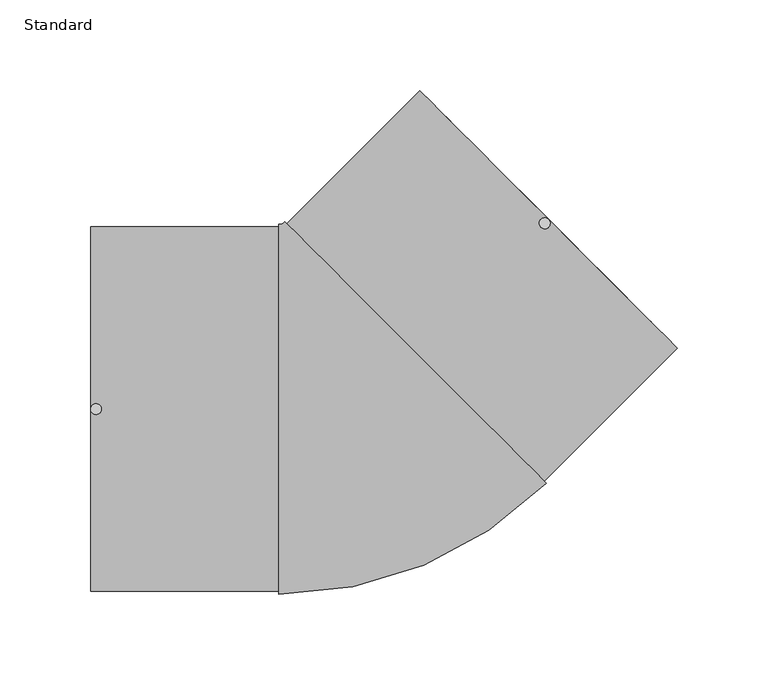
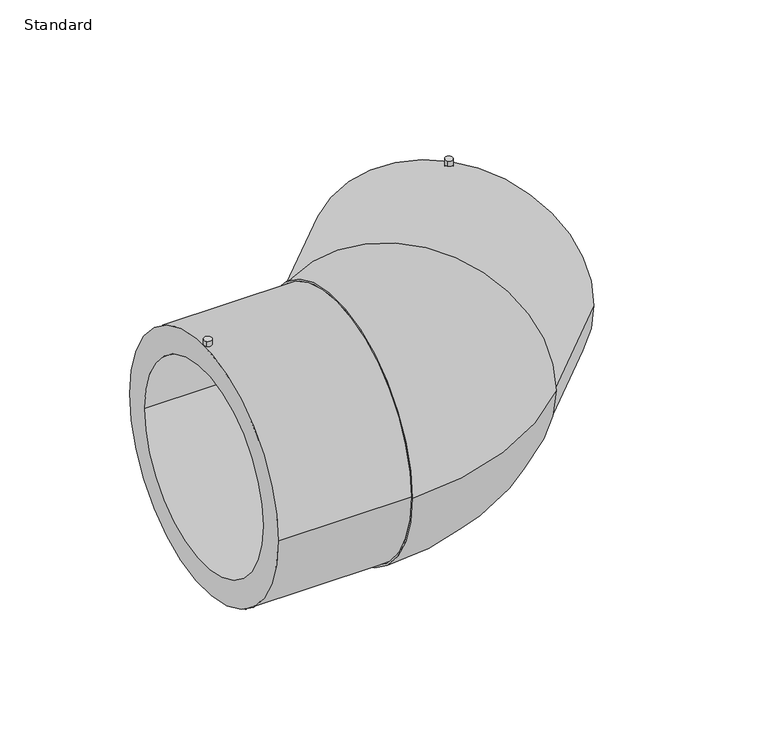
"""IFC4 building model written with IfcOpenShell, lengths in millimetres: pipe fitting geometry, EGB_VASEN_ PPR_Codo electrosoldable 90 WXRD200_Codo electrosoldable 45 WXRD220 : Standard."""

from ifc_helpers import new_model, si_unit, point, frame, frame_2d, origin, place, context, project, spatial, polyline, circle_curve, ellipse_curve, trimmed, segment, composite_curve, outline, extrude, source, transform, mapped, element, save
from ifc_brep_helpers import plane_surface, cylinder_surface, revolved_surface, advanced_brep


def standard_126719c3(model_context):
    return source(origin(), model_context, "Body", "SolidModel", [
        advanced_brep(
        [(-148.0, -100.5, 0.0), (-148.0, 100.5, 0.0), (-148.0, -80.0, 0.0), (-148.0, 80.0, 0.0), (-44.2497834, -100.5, 0.0), (-44.2497834, 100.5, 0.0), (-44.2497834, -80.0, 0.0), (-44.2497834, 80.0, 0.0), (-44.2497834, -102.0, 0.0), (-44.2497834, 102.0, 0.0), (103.4142136, -40.8355698, 0.0), (-40.8355698, 103.4142136, 0.0), (102.3535534, -39.7749096, 0.0), (-39.7749096, 102.3535534, 0.0), (87.8578644, -25.2792206, 0.0), (-25.2792206, 87.8578644, 0.0), (175.7160351, 33.5875721, 0.0), (33.5875721, 175.7160351, 0.0), (161.2203461, 48.0832611, 0.0), (48.0832611, 161.2203461, 0.0)],
        [
            (0, 1, circle_curve(frame((-148.0, 0.0, 0.0), z_axis=(-1.0, 0.0, 0.0), x_axis=(0.0, 1.0, 0.0)), 100.5)),
            (1, 0, circle_curve(frame((-148.0, 0.0, 0.0), z_axis=(-1.0, 0.0, 0.0), x_axis=(0.0, 1.0, 0.0)), 100.5)),
            (2, 3, circle_curve(frame((-148.0, 0.0, 0.0), z_axis=(1.0, 0.0, 0.0), x_axis=(0.0, 1.0, 0.0)), 80.0)),
            (3, 2, circle_curve(frame((-148.0, 0.0, 0.0), z_axis=(1.0, 0.0, 0.0), x_axis=(0.0, 1.0, 0.0)), 80.0)),
            (0, 4),
            (4, 5, circle_curve(frame((-44.2497834, 0.0, 0.0), z_axis=(-1.0, 0.0, 0.0), x_axis=(0.0, 1.0, 0.0)), 100.5)),
            (5, 1),
            (5, 4, circle_curve(frame((-44.2497834, 0.0, 0.0), z_axis=(-1.0, 0.0, 0.0), x_axis=(0.0, 1.0, 0.0)), 100.5)),
            (2, 6),
            (6, 7, circle_curve(frame((-44.2497834, 0.0, 0.0), z_axis=(1.0, 0.0, 0.0), x_axis=(0.0, 1.0, 0.0)), 80.0)),
            (7, 3),
            (7, 6, circle_curve(frame((-44.2497834, 0.0, 0.0), z_axis=(1.0, 0.0, 0.0), x_axis=(0.0, 1.0, 0.0)), 80.0)),
            (8, 9, circle_curve(frame((-44.2497834, 0.0, 0.0), z_axis=(-1.0, 0.0, 0.0), x_axis=(0.0, 1.0, 0.0)), 102.0)),
            (9, 8, circle_curve(frame((-44.2497834, 0.0, 0.0), z_axis=(-1.0, 0.0, 0.0), x_axis=(0.0, 1.0, 0.0)), 102.0)),
            (10, 11, circle_curve(frame((31.2893219, 31.2893219, 0.0), z_axis=(0.7071067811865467, 0.7071067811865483, 0.0), x_axis=(-0.7071067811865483, 0.7071067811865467, 0.0)), 102.0)),
            (11, 10, circle_curve(frame((31.2893219, 31.2893219, 0.0), z_axis=(0.7071067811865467, 0.7071067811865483, 0.0), x_axis=(-0.7071067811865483, 0.7071067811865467, 0.0)), 102.0)),
            (12, 13, circle_curve(frame((31.2893219, 31.2893219, 0.0), z_axis=(-0.7071067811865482, -0.7071067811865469, 0.0), x_axis=(-0.7071067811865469, 0.7071067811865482, 0.0)), 100.5)),
            (13, 12, circle_curve(frame((31.2893219, 31.2893219, 0.0), z_axis=(-0.7071067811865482, -0.7071067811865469, 0.0), x_axis=(-0.7071067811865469, 0.7071067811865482, 0.0)), 100.5)),
            (14, 15, circle_curve(frame((31.2893219, 31.2893219, 0.0), z_axis=(0.7071067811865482, 0.7071067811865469, 0.0), x_axis=(-0.7071067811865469, 0.7071067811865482, 0.0)), 80.0)),
            (15, 14, circle_curve(frame((31.2893219, 31.2893219, 0.0), z_axis=(0.7071067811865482, 0.7071067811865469, 0.0), x_axis=(-0.7071067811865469, 0.7071067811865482, 0.0)), 80.0)),
            (8, 10, circle_curve(frame((-44.2497834, 106.8284271, 0.0), z_axis=(0.0, 0.0, 1.0), x_axis=(0.0, -1.0, 0.0)), 208.8284271)),
            (11, 9, circle_curve(frame((-44.2497834, 106.8284271, 0.0), z_axis=(0.0, 0.0, -1.0), x_axis=(0.0, -1.0, 0.0)), 4.8284271)),
            (16, 17, circle_curve(frame((104.6518036, 104.6518036, 0.0), z_axis=(0.7071067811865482, 0.7071067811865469, 0.0), x_axis=(-0.7071067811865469, 0.7071067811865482, 0.0)), 100.5)),
            (17, 16, circle_curve(frame((104.6518036, 104.6518036, 0.0), z_axis=(0.7071067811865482, 0.7071067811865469, 0.0), x_axis=(-0.7071067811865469, 0.7071067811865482, 0.0)), 100.5)),
            (18, 19, circle_curve(frame((104.6518036, 104.6518036, 0.0), z_axis=(-0.7071067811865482, -0.7071067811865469, 0.0), x_axis=(-0.7071067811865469, 0.7071067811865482, 0.0)), 80.0)),
            (19, 18, circle_curve(frame((104.6518036, 104.6518036, 0.0), z_axis=(-0.7071067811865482, -0.7071067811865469, 0.0), x_axis=(-0.7071067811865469, 0.7071067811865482, 0.0)), 80.0)),
            (17, 13),
            (12, 16),
            (19, 15),
            (14, 18),
        ],
        [
            plane_surface(frame((-148.0, 0.0, 0.0), z_axis=(-1.0, 0.0, 0.0), x_axis=(0.0, 0.0, 1.0))),
            cylinder_surface(frame((-148.0, 0.0, 0.0), z_axis=(-1.0, 0.0, 0.0), x_axis=(0.0, 1.0, 0.0)), 100.5),
            revolved_surface(polyline([(-44.2497834, 80.0, 0.0), (-148.0, 80.0, 0.0)]), (-148.0, 0.0, 0.0), (1.0, 0.0, 0.0)),
            plane_surface(frame((-44.2497834, 0.0, 0.0), z_axis=(-1.0, 0.0, 0.0), x_axis=(0.0, 0.0, 1.0))),
            plane_surface(frame((31.2893219, 31.2893219, 0.0), z_axis=(0.7071067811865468, 0.7071067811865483, 0.0), x_axis=(0.0, 0.0, 1.0))),
            revolved_surface(trimmed(ellipse_curve(frame((-44.2497834, 0.0, 0.0), z_axis=(-1.0, 0.0, 0.0), x_axis=(0.0, 1.0, 0.0)), 102.0, 102.0), [point((-44.2497834, -102.0, 0.0))], [point((-44.2497834, 102.0, 0.0))], True, "CARTESIAN"), (-44.2497834, 106.8284271, 0.0), (0.0, 0.0, 1.0)),
            revolved_surface(trimmed(ellipse_curve(frame((-44.2497834, 0.0, 0.0), z_axis=(-1.0, 0.0, 0.0), x_axis=(0.0, 1.0, 0.0)), 102.0, 102.0), [point((-44.2497834, 102.0, 0.0))], [point((-44.2497834, -102.0, 0.0))], True, "CARTESIAN"), (-44.2497834, 106.8284271, 0.0), (0.0, 0.0, 1.0)),
            plane_surface(frame((104.6518036, 104.6518036, 0.0), z_axis=(0.7071067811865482, 0.7071067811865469, 0.0), x_axis=(0.0, 0.0, 1.0))),
            cylinder_surface(frame((31.2893219, 31.2893219, 0.0), z_axis=(-0.7071067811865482, -0.7071067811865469, 0.0), x_axis=(-0.7071067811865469, 0.7071067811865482, 0.0)), 100.5),
            revolved_surface(polyline([(48.083261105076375, 161.22034609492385, 0.0), (-25.279220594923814, 87.85786439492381, 0.0)]), (31.2893219, 31.2893219, 0.0), (0.7071067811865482, 0.7071067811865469, 0.0)),
        ],
        [
            (0, [[1, 2], [3, 4]]),
            (1, [[-1, 5, 6, 7]]),
            (1, [[-2, -7, 8, -5]]),
            (2, [[-3, 9, 10, 11]]),
            (2, [[-4, -11, 12, -9]]),
            (3, [[-10, -12]]),
            (3, [[13, 14], [-6, -8]]),
            (4, [[15, 16], [17, 18]]),
            (4, [[19, 20]]),
            (5, [[-13, 21, -16, 22]]),
            (6, [[-14, -22, -15, -21]]),
            (7, [[23, 24], [25, 26]]),
            (8, [[-24, 27, -17, 28]]),
            (8, [[-23, -28, -18, -27]]),
            (9, [[-26, 29, -19, 30]]),
            (9, [[-25, -30, -20, -29]]),
        ],
    ),
        extrude(outline(composite_curve([segment(trimmed(circle_curve(frame_2d((102.5304833, 102.5304833)), 3.0), [point((100.4091629, 100.4091629))], [point((104.6518036, 104.6518036))], False, "CARTESIAN"), True, "CONTINUOUS"), segment(trimmed(circle_curve(frame_2d((102.5304833, 102.5304833)), 3.0), [point((104.6518036, 104.6518036))], [point((100.4091629, 100.4091629))], False, "CARTESIAN"), True, "CONTINUOUS")], self_intersect=False)), frame((0.0, 0.0, 81.0), z_axis=(0.0, 0.0, 1.0), x_axis=(1.0, 0.0, 0.0)), (0.0, 0.0, 1.0), 24.0),
        extrude(outline(composite_curve([segment(trimmed(circle_curve(frame_2d((-145.0, 0.0)), 3.0), [point((-147.1213203, -2.1213203))], [point((-142.8786797, 2.1213203))], False, "CARTESIAN"), True, "CONTINUOUS"), segment(trimmed(circle_curve(frame_2d((-145.0, 0.0)), 3.0), [point((-142.8786797, 2.1213203))], [point((-147.1213203, -2.1213203))], False, "CARTESIAN"), True, "CONTINUOUS")], self_intersect=False)), frame((0.0, 0.0, 81.0), z_axis=(0.0, 0.0, 1.0), x_axis=(1.0, 0.0, 0.0)), (0.0, 0.0, 1.0), 24.0),
    ])


if __name__ == "__main__":
    model = new_model("IFC4")
    model_context = context("Model", 3, world=origin())
    ifc_project = project(units=[si_unit("LENGTHUNIT", "METRE", prefix="MILLI")], contexts=[model_context])
    site = spatial("IfcSite", under=ifc_project)
    building = spatial("IfcBuilding", under=site)
    placement = place(None, origin())
    standard_shape = standard_126719c3(model_context)
    element("IfcPipeFitting", 1, ObjectType="EGB_VASEN_ PPR_Codo electrosoldable 90 WXRD200_Codo electrosoldable 45 WXRD220 : Standard", at=placement, inside=building, context=model_context, shape_type="MappedRepresentation", body=[
        mapped(standard_shape, transform((0.0, 0.0, 0.0), x_axis=(1.0, 0.0, 0.0), y_axis=(0.0, 1.0, 0.0), z_axis=(0.0, 0.0, 1.0))),
    ])
    save(model, "model.ifc")
